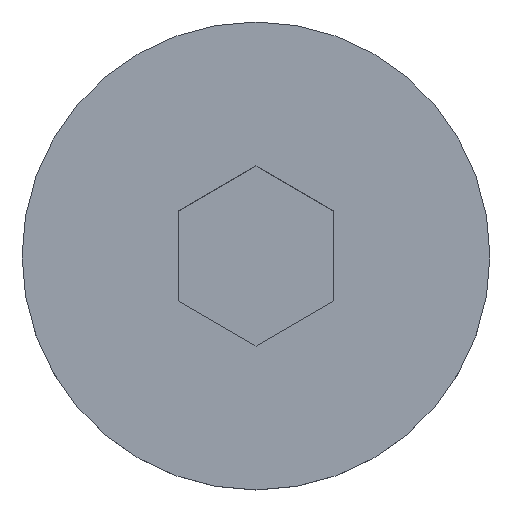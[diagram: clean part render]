
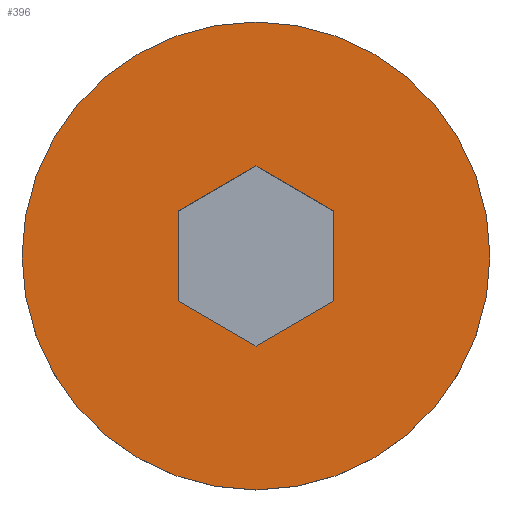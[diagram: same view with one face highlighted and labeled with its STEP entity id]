
A CAD part, top view. The second image highlights one B-rep face of the part: STEP entity #396.
In plain terms, the highlighted planar face has unit normal (0, 0, 1).
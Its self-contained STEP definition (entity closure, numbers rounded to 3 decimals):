
#11 = ORIENTED_EDGE ( 'NONE', *, *, #180, .F. ) ;
#13 = VERTEX_POINT ( 'NONE', #427 ) ;
#15 = EDGE_CURVE ( 'NONE', #72, #375, #361, .T. ) ;
#20 = CIRCLE ( 'NONE', #258, 7.5 ) ;
#43 = EDGE_CURVE ( 'NONE', #126, #74, #254, .T. ) ;
#46 = CIRCLE ( 'NONE', #290, 7.5 ) ;
#47 = ORIENTED_EDGE ( 'NONE', *, *, #285, .T. ) ;
#56 = DIRECTION ( 'NONE',  ( 1., 0., 0. ) ) ;
#58 = CARTESIAN_POINT ( 'NONE',  ( -2.5, 1.443, 1.5 ) ) ;
#64 = ORIENTED_EDGE ( 'NONE', *, *, #194, .F. ) ;
#69 = VERTEX_POINT ( 'NONE', #192 ) ;
#70 = DIRECTION ( 'NONE',  ( 1., 0., 0. ) ) ;
#72 = VERTEX_POINT ( 'NONE', #367 ) ;
#74 = VERTEX_POINT ( 'NONE', #190 ) ;
#80 = CARTESIAN_POINT ( 'NONE',  ( 0., 0., 1.5 ) ) ;
#82 = ORIENTED_EDGE ( 'NONE', *, *, #15, .F. ) ;
#92 = DIRECTION ( 'NONE',  ( -0.866, 0.5, 0. ) ) ;
#103 = VECTOR ( 'NONE', #408, 1000. ) ;
#108 = EDGE_CURVE ( 'NONE', #284, #13, #20, .T. ) ;
#115 = VECTOR ( 'NONE', #92, 1000. ) ;
#126 = VERTEX_POINT ( 'NONE', #58 ) ;
#141 = ORIENTED_EDGE ( 'NONE', *, *, #339, .F. ) ;
#147 = ORIENTED_EDGE ( 'NONE', *, *, #108, .T. ) ;
#151 = VECTOR ( 'NONE', #402, 1000. ) ;
#162 = LINE ( 'NONE', #250, #151 ) ;
#180 = EDGE_CURVE ( 'NONE', #74, #69, #356, .T. ) ;
#181 = CARTESIAN_POINT ( 'NONE',  ( 7.5, 0., 1.5 ) ) ;
#188 = CARTESIAN_POINT ( 'NONE',  ( 2.5, 1.443, 1.5 ) ) ;
#190 = CARTESIAN_POINT ( 'NONE',  ( -2.5, -1.443, 1.5 ) ) ;
#192 = CARTESIAN_POINT ( 'NONE',  ( 0., -2.887, 1.5 ) ) ;
#193 = FACE_OUTER_BOUND ( 'NONE', #221, .T. ) ;
#194 = EDGE_CURVE ( 'NONE', #375, #262, #295, .T. ) ;
#203 = LINE ( 'NONE', #376, #332 ) ;
#209 = CARTESIAN_POINT ( 'NONE',  ( 0., 0., 1.5 ) ) ;
#221 = EDGE_LOOP ( 'NONE', ( #47, #147 ) ) ;
#223 = DIRECTION ( 'NONE',  ( -0.866, -0.5, 0. ) ) ;
#248 = AXIS2_PLACEMENT_3D ( 'NONE', #80, #409, #371 ) ;
#250 = CARTESIAN_POINT ( 'NONE',  ( 0., -2.887, 1.5 ) ) ;
#254 = LINE ( 'NONE', #280, #103 ) ;
#258 = AXIS2_PLACEMENT_3D ( 'NONE', #294, #264, #56 ) ;
#259 = PLANE ( 'NONE',  #248 ) ;
#262 = VERTEX_POINT ( 'NONE', #328 ) ;
#264 = DIRECTION ( 'NONE',  ( 0., 0., 1. ) ) ;
#268 = ORIENTED_EDGE ( 'NONE', *, *, #374, .F. ) ;
#280 = CARTESIAN_POINT ( 'NONE',  ( -2.5, 1.443, 1.5 ) ) ;
#281 = VECTOR ( 'NONE', #298, 1000. ) ;
#284 = VERTEX_POINT ( 'NONE', #181 ) ;
#285 = EDGE_CURVE ( 'NONE', #13, #284, #46, .T. ) ;
#288 = ORIENTED_EDGE ( 'NONE', *, *, #43, .F. ) ;
#290 = AXIS2_PLACEMENT_3D ( 'NONE', #209, #426, #70 ) ;
#294 = CARTESIAN_POINT ( 'NONE',  ( 0., 0., 1.5 ) ) ;
#295 = LINE ( 'NONE', #413, #115 ) ;
#298 = DIRECTION ( 'NONE',  ( 0.866, -0.5, 0. ) ) ;
#305 = CARTESIAN_POINT ( 'NONE',  ( 2.5, -1.443, 1.5 ) ) ;
#328 = CARTESIAN_POINT ( 'NONE',  ( 0., 2.887, 1.5 ) ) ;
#332 = VECTOR ( 'NONE', #223, 1000. ) ;
#339 = EDGE_CURVE ( 'NONE', #69, #72, #162, .T. ) ;
#342 = FACE_BOUND ( 'NONE', #389, .T. ) ;
#346 = VECTOR ( 'NONE', #392, 1000. ) ;
#356 = LINE ( 'NONE', #420, #281 ) ;
#361 = LINE ( 'NONE', #305, #346 ) ;
#367 = CARTESIAN_POINT ( 'NONE',  ( 2.5, -1.443, 1.5 ) ) ;
#371 = DIRECTION ( 'NONE',  ( 1., 0., 0. ) ) ;
#374 = EDGE_CURVE ( 'NONE', #262, #126, #203, .T. ) ;
#375 = VERTEX_POINT ( 'NONE', #188 ) ;
#376 = CARTESIAN_POINT ( 'NONE',  ( 0., 2.887, 1.5 ) ) ;
#389 = EDGE_LOOP ( 'NONE', ( #64, #82, #141, #11, #288, #268 ) ) ;
#392 = DIRECTION ( 'NONE',  ( 0., 1., 0. ) ) ;
#396 = ADVANCED_FACE ( 'NONE', ( #342, #193 ), #259, .T. ) ;
#402 = DIRECTION ( 'NONE',  ( 0.866, 0.5, 0. ) ) ;
#408 = DIRECTION ( 'NONE',  ( 0., -1., 0. ) ) ;
#409 = DIRECTION ( 'NONE',  ( 0., 0., 1. ) ) ;
#413 = CARTESIAN_POINT ( 'NONE',  ( 2.5, 1.443, 1.5 ) ) ;
#420 = CARTESIAN_POINT ( 'NONE',  ( -2.5, -1.443, 1.5 ) ) ;
#426 = DIRECTION ( 'NONE',  ( 0., 0., 1. ) ) ;
#427 = CARTESIAN_POINT ( 'NONE',  ( -7.5, 0., 1.5 ) ) ;
